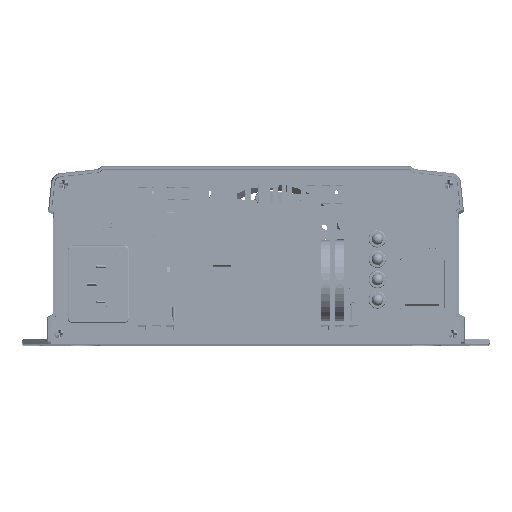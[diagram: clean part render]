
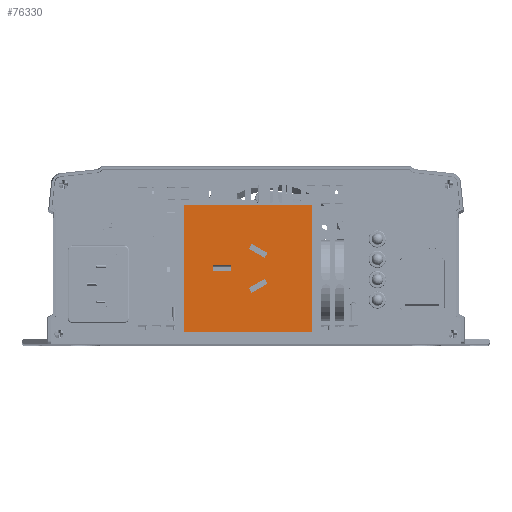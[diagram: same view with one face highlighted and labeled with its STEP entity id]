
A CAD part, top view. The second image highlights one B-rep face of the part: STEP entity #76330.
In plain terms, the highlighted planar face has unit normal (0, 0, 1) as drawn and (0, 0, -1) by its records, which use the part's own axes.
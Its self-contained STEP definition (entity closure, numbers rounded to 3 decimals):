
#41340=CARTESIAN_POINT('',(25.,-25.,0.));
#41350=VERTEX_POINT('',#41340);
#41380=CARTESIAN_POINT('',(25.,-25.,0.));
#41390=DIRECTION('',(-1.,0.,0.));
#41400=VECTOR('',#41390,1.);
#41410=LINE('',#41380,#41400);
#41420=CARTESIAN_POINT('',(-25.,-25.,0.));
#41430=VERTEX_POINT('',#41420);
#41440=EDGE_CURVE('',#41350,#41430,#41410,.T.);
#59370=CARTESIAN_POINT('',(25.,25.,0.));
#59380=VERTEX_POINT('',#59370);
#59410=CARTESIAN_POINT('',(25.,25.,0.));
#59420=DIRECTION('',(0.,-1.,0.));
#59430=VECTOR('',#59420,1.);
#59440=LINE('',#59410,#59430);
#59450=EDGE_CURVE('',#59380,#41350,#59440,.T.);
#61530=CARTESIAN_POINT('',(-25.,25.,0.));
#61540=VERTEX_POINT('',#61530);
#61570=CARTESIAN_POINT('',(-25.,25.,0.));
#61580=DIRECTION('',(1.,0.,0.));
#61590=VECTOR('',#61580,1.);
#61600=LINE('',#61570,#61590);
#61610=EDGE_CURVE('',#61540,#59380,#61600,.T.);
#74930=CARTESIAN_POINT('',(-25.,-25.,0.));
#74940=DIRECTION('',(0.,1.,0.));
#74950=VECTOR('',#74940,1.);
#74960=LINE('',#74930,#74950);
#74970=EDGE_CURVE('',#41430,#61540,#74960,.T.);
#75200=CARTESIAN_POINT('',(-25.,25.,0.));
#75210=DIRECTION('',(0.,0.,-1.));
#75220=DIRECTION('',(-1.,0.,0.));
#75230=AXIS2_PLACEMENT_3D('',#75200,#75210,#75220);
#75240=PLANE('',#75230);
#75250=ORIENTED_EDGE('',*,*,#41440,.T.);
#75260=ORIENTED_EDGE('',*,*,#59450,.T.);
#75270=ORIENTED_EDGE('',*,*,#61610,.T.);
#75280=ORIENTED_EDGE('',*,*,#74970,.T.);
#75290=EDGE_LOOP('',(#75280,#75270,#75260,#75250));
#75300=FACE_OUTER_BOUND('',#75290,.T.);
#75310=CARTESIAN_POINT('',(9.633,1.412,0.));
#75320=DIRECTION('',(-0.5,0.866,0.));
#75330=VECTOR('',#75320,1.);
#75340=LINE('',#75310,#75330);
#75350=CARTESIAN_POINT('',(9.633,1.412,0.));
#75360=VERTEX_POINT('',#75350);
#75370=CARTESIAN_POINT('',(6.033,7.648,0.));
#75380=VERTEX_POINT('',#75370);
#75390=EDGE_CURVE('',#75360,#75380,#75340,.T.);
#75400=ORIENTED_EDGE('',*,*,#75390,.T.);
#75410=CARTESIAN_POINT('',(7.738,0.318,0.));
#75420=DIRECTION('',(0.866,0.5,0.));
#75430=VECTOR('',#75420,1.);
#75440=LINE('',#75410,#75430);
#75450=CARTESIAN_POINT('',(7.738,0.318,0.));
#75460=VERTEX_POINT('',#75450);
#75470=EDGE_CURVE('',#75460,#75360,#75440,.T.);
#75480=ORIENTED_EDGE('',*,*,#75470,.T.);
#75490=CARTESIAN_POINT('',(4.138,6.554,0.));
#75500=DIRECTION('',(0.5,-0.866,0.));
#75510=VECTOR('',#75500,1.);
#75520=LINE('',#75490,#75510);
#75530=CARTESIAN_POINT('',(4.138,6.554,0.));
#75540=VERTEX_POINT('',#75530);
#75550=EDGE_CURVE('',#75540,#75460,#75520,.T.);
#75560=ORIENTED_EDGE('',*,*,#75550,.T.);
#75570=CARTESIAN_POINT('',(6.033,7.648,0.));
#75580=DIRECTION('',(-0.866,-0.5,0.));
#75590=VECTOR('',#75580,1.);
#75600=LINE('',#75570,#75590);
#75610=EDGE_CURVE('',#75380,#75540,#75600,.T.);
#75620=ORIENTED_EDGE('',*,*,#75610,.T.);
#75630=EDGE_LOOP('',(#75620,#75560,#75480,#75400));
#75640=FACE_BOUND('',#75630,.T.);
#75650=CARTESIAN_POINT('',(-6.033,7.648,0.));
#75660=DIRECTION('',(-0.5,-0.866,0.));
#75670=VECTOR('',#75660,1.);
#75680=LINE('',#75650,#75670);
#75690=CARTESIAN_POINT('',(-6.033,7.648,0.));
#75700=VERTEX_POINT('',#75690);
#75710=CARTESIAN_POINT('',(-9.633,1.412,0.));
#75720=VERTEX_POINT('',#75710);
#75730=EDGE_CURVE('',#75700,#75720,#75680,.T.);
#75740=ORIENTED_EDGE('',*,*,#75730,.T.);
#75750=CARTESIAN_POINT('',(-4.138,6.554,0.));
#75760=DIRECTION('',(-0.866,0.5,0.));
#75770=VECTOR('',#75760,1.);
#75780=LINE('',#75750,#75770);
#75790=CARTESIAN_POINT('',(-4.138,6.554,0.));
#75800=VERTEX_POINT('',#75790);
#75810=EDGE_CURVE('',#75800,#75700,#75780,.T.);
#75820=ORIENTED_EDGE('',*,*,#75810,.T.);
#75830=CARTESIAN_POINT('',(-7.738,0.318,0.));
#75840=DIRECTION('',(0.5,0.866,0.));
#75850=VECTOR('',#75840,1.);
#75860=LINE('',#75830,#75850);
#75870=CARTESIAN_POINT('',(-7.738,0.318,
0.));
#75880=VERTEX_POINT('',#75870);
#75890=EDGE_CURVE('',#75880,#75800,#75860,.T.);
#75900=ORIENTED_EDGE('',*,*,#75890,.T.);
#75910=CARTESIAN_POINT('',(-9.633,1.412,0.));
#75920=DIRECTION('',(0.866,-0.5,0.));
#75930=VECTOR('',#75920,1.);
#75940=LINE('',#75910,#75930);
#75950=EDGE_CURVE('',#75720,#75880,#75940,.T.);
#75960=ORIENTED_EDGE('',*,*,#75950,.T.);
#75970=EDGE_LOOP('',(#75960,#75900,#75820,#75740));
#75980=FACE_BOUND('',#75970,.T.);
#75990=CARTESIAN_POINT('',(-0.865,-13.8,0.));
#76000=DIRECTION('',(1.,0.,0.));
#76010=VECTOR('',#76000,1.);
#76020=LINE('',#75990,#76010);
#76030=CARTESIAN_POINT('',(-0.865,-13.8,0.));
#76040=VERTEX_POINT('',#76030);
#76050=CARTESIAN_POINT('',(1.135,-13.8,0.));
#76060=VERTEX_POINT('',#76050);
#76070=EDGE_CURVE('',#76040,#76060,#76020,.T.);
#76080=ORIENTED_EDGE('',*,*,#76070,.T.);
#76090=CARTESIAN_POINT('',(-0.865,-6.8,0.));
#76100=DIRECTION('',(0.,-1.,0.));
#76110=VECTOR('',#76100,1.);
#76120=LINE('',#76090,#76110);
#76130=CARTESIAN_POINT('',(-0.865,-6.8,0.));
#76140=VERTEX_POINT('',#76130);
#76150=EDGE_CURVE('',#76140,#76040,#76120,.T.);
#76160=ORIENTED_EDGE('',*,*,#76150,.T.);
#76170=CARTESIAN_POINT('',(1.135,-6.8,0.));
#76180=DIRECTION('',(-1.,0.,0.));
#76190=VECTOR('',#76180,1.);
#76200=LINE('',#76170,#76190);
#76210=CARTESIAN_POINT('',(1.135,-6.8,0.));
#76220=VERTEX_POINT('',#76210);
#76230=EDGE_CURVE('',#76220,#76140,#76200,.T.);
#76240=ORIENTED_EDGE('',*,*,#76230,.T.);
#76250=CARTESIAN_POINT('',(1.135,-13.8,0.));
#76260=DIRECTION('',(0.,1.,0.));
#76270=VECTOR('',#76260,1.);
#76280=LINE('',#76250,#76270);
#76290=EDGE_CURVE('',#76060,#76220,#76280,.T.);
#76300=ORIENTED_EDGE('',*,*,#76290,.T.);
#76310=EDGE_LOOP('',(#76300,#76240,#76160,#76080));
#76320=FACE_BOUND('',#76310,.T.);
#76330=ADVANCED_FACE('',(#75300,#75640,#75980,#76320),#75240,.T.);
